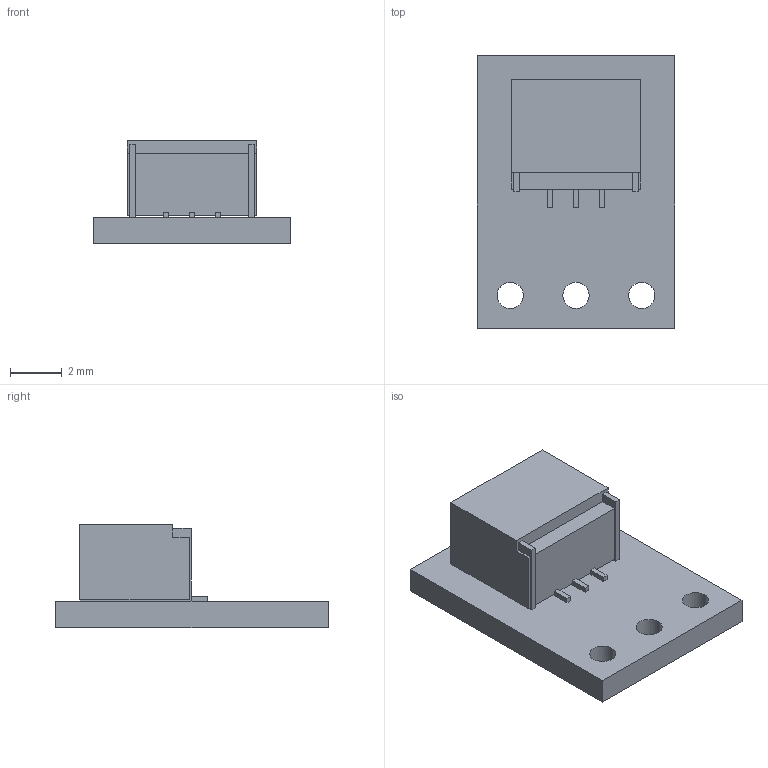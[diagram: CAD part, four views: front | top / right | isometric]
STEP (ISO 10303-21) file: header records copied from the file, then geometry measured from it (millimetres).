
FILE_DESCRIPTION (( 'STEP AP214' ), '1' );
FILE_NAME ('con05a_side.step', '2025-06-12T20:48:06', ( '' ), ( '' ), 'SwSTEP 2.0', 'SolidWorks 2025', '' );
FILE_SCHEMA (( 'AUTOMOTIVE_DESIGN' ));
Length unit declared in the file: millimetre
Products named in the file (1): con05a_side
Bounding box: 7.62 x 10.54 x 3.99 mm (x, y, z)
Volume: 117.5 mm3; surface area: 341.2 mm2
Topology: 1 solids, 1 shells, 464 faces, 1260 edges, 840 vertices
Faces by surface type: plane 270, bspline 188, cylinder 6
Entity records: 26549 total; most frequent: CARTESIAN_POINT 11025, ORIENTED_EDGE 2520, DIRECTION 1450, EDGE_CURVE 1260, LINE 872, VECTOR 872, VERTEX_POINT 840, EDGE_LOOP 520
